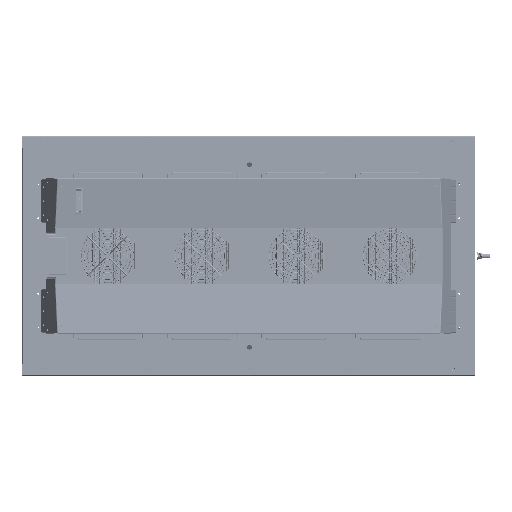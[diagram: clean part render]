
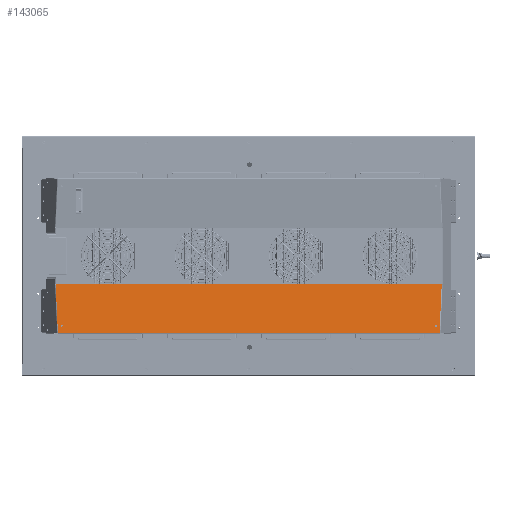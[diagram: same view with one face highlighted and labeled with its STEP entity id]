
A CAD part, front view. The second image highlights one B-rep face of the part: STEP entity #143065.
In plain terms, the highlighted planar face has unit normal (0, -0.993, 0.122).
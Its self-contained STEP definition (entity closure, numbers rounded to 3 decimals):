
#141063=CARTESIAN_POINT('',(530.328,-94.101,
-59.977));
#141064=CARTESIAN_POINT('',(513.436,-94.101,
-59.977));
#141065=CARTESIAN_POINT('',(496.548,-94.107,
-60.061));
#141066=CARTESIAN_POINT('',(479.655,-94.107,
-60.061));
#141068=DIRECTION('',(-1.,0.,0.));
#141069=VECTOR('',#141068,555.311);
#141070=CARTESIAN_POINT('',(479.655,-94.107,
-60.061));
#141071=LINE('',#141070,#141069);
#141072=CARTESIAN_POINT('',(-75.655,-94.107,
-60.061));
#141073=CARTESIAN_POINT('',(-92.552,-94.107,
-60.061));
#141074=CARTESIAN_POINT('',(-109.436,-94.1,
-59.973));
#141075=CARTESIAN_POINT('',(-126.332,-94.1,
-59.973));
#141101=DIRECTION('',(-1.,0.,
0.));
#141102=VECTOR('',#141101,86.028);
#141103=CARTESIAN_POINT('',(-126.332,-94.1,
-59.973));
#141104=LINE('',#141103,#141102);
#141174=DIRECTION('',(-0.044,-0.122,
-0.992));
#141175=VECTOR('',#141174,106.055);
#141176=CARTESIAN_POINT('',(616.36,-94.1,
-59.995));
#141177=LINE('',#141176,#141175);
#141178=DIRECTION('',(-0.044,0.122,0.992));
#141179=VECTOR('',#141178,106.048);
#141180=CARTESIAN_POINT('',(-207.661,-107.012,
-165.156));
#141181=LINE('',#141180,#141179);
#141182=DIRECTION('',(1.,0.,0.));
#141183=VECTOR('',#141182,86.032);
#141184=CARTESIAN_POINT('',(530.328,-94.101,
-59.977));
#141185=LINE('',#141184,#141183);
#141186=CARTESIAN_POINT('',(603.764,-105.132,
-149.85));
#141187=DIRECTION('',(0.,-0.993,0.122));
#141188=DIRECTION('',(0.,0.122,0.993));
#141189=AXIS2_PLACEMENT_3D('',#141186,#141187,#141188);
#141191=CARTESIAN_POINT('',(603.764,-105.132,
-149.85));
#141192=DIRECTION('',(0.,-0.993,0.122));
#141193=DIRECTION('',(0.,-0.122,
-0.993));
#141194=AXIS2_PLACEMENT_3D('',#141191,#141192,#141193);
#141196=CARTESIAN_POINT('',(-199.764,-105.132,
-149.85));
#141197=DIRECTION('',(0.,-0.993,0.122));
#141198=DIRECTION('',(0.,0.122,0.993));
#141199=AXIS2_PLACEMENT_3D('',#141196,#141197,#141198);
#141201=CARTESIAN_POINT('',(-199.764,-105.132,
-149.85));
#141202=DIRECTION('',(0.,-0.993,0.122));
#141203=DIRECTION('',(0.,-0.122,
-0.993));
#141204=AXIS2_PLACEMENT_3D('',#141201,#141202,#141203);
#141809=DIRECTION('',(1.,0.,0.));
#141810=VECTOR('',#141809,819.322);
#141811=CARTESIAN_POINT('',(-207.661,-107.012,
-165.156));
#141812=LINE('',#141811,#141810);
#142160=CARTESIAN_POINT('',(616.36,-94.1,
-59.995));
#142161=VERTEX_POINT('',#142160);
#142162=CARTESIAN_POINT('',(530.328,-94.101,
-59.977));
#142163=VERTEX_POINT('',#142162);
#142182=CARTESIAN_POINT('',(-126.332,-94.1,
-59.973));
#142183=CARTESIAN_POINT('',(-212.36,-94.101,
-60.002));
#142184=VERTEX_POINT('',#142182);
#142185=VERTEX_POINT('',#142183);
#142196=CARTESIAN_POINT('',(611.661,-107.012,
-165.156));
#142197=VERTEX_POINT('',#142196);
#142198=CARTESIAN_POINT('',(-207.661,-107.012,
-165.156));
#142199=VERTEX_POINT('',#142198);
#142200=CARTESIAN_POINT('',(603.764,-104.858,
-147.617));
#142201=CARTESIAN_POINT('',(603.764,-105.406,
-152.083));
#142202=VERTEX_POINT('',#142200);
#142203=VERTEX_POINT('',#142201);
#142204=CARTESIAN_POINT('',(-199.764,-104.858,
-147.617));
#142205=CARTESIAN_POINT('',(-199.764,-105.406,
-152.083));
#142206=VERTEX_POINT('',#142204);
#142207=VERTEX_POINT('',#142205);
#142371=VERTEX_POINT('',#141072);
#142372=VERTEX_POINT('',#141066);
#143036=CARTESIAN_POINT('',(202.,-100.558,-112.598));
#143037=DIRECTION('',(0.,0.993,-0.122));
#143038=DIRECTION('',(0.,0.122,0.993));
#143039=AXIS2_PLACEMENT_3D('',#143036,#143037,#143038);
#143040=PLANE('',#143039);
#143042=ORIENTED_EDGE('',*,*,#143041,.T.);
#143044=ORIENTED_EDGE('',*,*,#143043,.F.);
#143045=ORIENTED_EDGE('',*,*,#143026,.T.);
#143046=ORIENTED_EDGE('',*,*,#142920,.F.);
#143047=ORIENTED_EDGE('',*,*,#142870,.F.);
#143048=ORIENTED_EDGE('',*,*,#142868,.F.);
#143049=ORIENTED_EDGE('',*,*,#142866,.F.);
#143050=ORIENTED_EDGE('',*,*,#142775,.T.);
#143051=EDGE_LOOP('',(#143042,#143044,#143045,#143046,#143047,#143048,#143049,
#143050));
#143052=FACE_OUTER_BOUND('',#143051,.F.);
#143054=ORIENTED_EDGE('',*,*,#143053,.T.);
#143056=ORIENTED_EDGE('',*,*,#143055,.T.);
#143057=EDGE_LOOP('',(#143054,#143056));
#143058=FACE_BOUND('',#143057,.F.);
#143060=ORIENTED_EDGE('',*,*,#143059,.T.);
#143062=ORIENTED_EDGE('',*,*,#143061,.T.);
#143063=EDGE_LOOP('',(#143060,#143062));
#143064=FACE_BOUND('',#143063,.F.);
#143065=ADVANCED_FACE('',(#143052,#143058,#143064),#143040,.F.);
#141067=B_SPLINE_CURVE_WITH_KNOTS('',3,(#141063,#141064,#141065,#141066),
.UNSPECIFIED.,.F.,.F.,(4,4),(0.,1.),.UNSPECIFIED.);
#141076=B_SPLINE_CURVE_WITH_KNOTS('',3,(#141072,#141073,#141074,#141075),
.UNSPECIFIED.,.F.,.F.,(4,4),(0.,1.),.UNSPECIFIED.);
#141190=CIRCLE('',#141189,2.25);
#141195=CIRCLE('',#141194,2.25);
#141200=CIRCLE('',#141199,2.25);
#141205=CIRCLE('',#141204,2.25);
#142775=EDGE_CURVE('',#142163,#142161,#141185,.T.);
#142866=EDGE_CURVE('',#142163,#142372,#141067,.T.);
#142868=EDGE_CURVE('',#142372,#142371,#141071,.T.);
#142870=EDGE_CURVE('',#142371,#142184,#141076,.T.);
#142920=EDGE_CURVE('',#142184,#142185,#141104,.T.);
#143026=EDGE_CURVE('',#142199,#142185,#141181,.T.);
#143041=EDGE_CURVE('',#142161,#142197,#141177,.T.);
#143043=EDGE_CURVE('',#142199,#142197,#141812,.T.);
#143053=EDGE_CURVE('',#142202,#142203,#141190,.T.);
#143055=EDGE_CURVE('',#142203,#142202,#141195,.T.);
#143059=EDGE_CURVE('',#142206,#142207,#141200,.T.);
#143061=EDGE_CURVE('',#142207,#142206,#141205,.T.);
